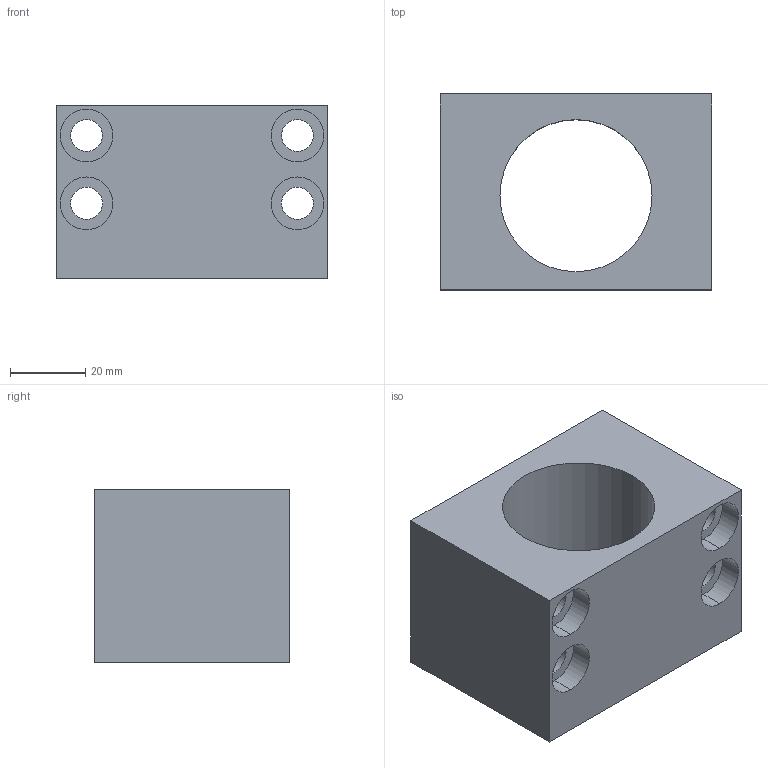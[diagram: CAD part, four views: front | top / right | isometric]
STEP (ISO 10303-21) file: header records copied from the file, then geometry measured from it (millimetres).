
FILE_DESCRIPTION((''),'2;1');
FILE_NAME('NH20B','2020-03-31T',('Administrator'),(''),'PRO/ENGINEER BY PARAMETRIC TECHNOLOGY CORPORATION, 2010280','PRO/ENGINEER BY PARAMETRIC TECHNOLOGY CORPORATION, 2010280','');
FILE_SCHEMA(('CONFIG_CONTROL_DESIGN'));
Length unit declared in the file: millimetre
Products named in the file (1): NH20B
Bounding box: 72 x 52 x 46 mm (x, y, z)
Volume: 98410.2 mm3; surface area: 28354.7 mm2
Topology: 1 solids, 1 shells, 56 faces, 170 edges, 108 vertices
Faces by surface type: cylinder 26, cone 16, plane 14
Entity records: 1937 total; most frequent: CARTESIAN_POINT 379, DIRECTION 330, ORIENTED_EDGE 308, EDGE_CURVE 154, AXIS2_PLACEMENT_3D 132, VERTEX_POINT 108, CIRCLE 76, EDGE_LOOP 74
